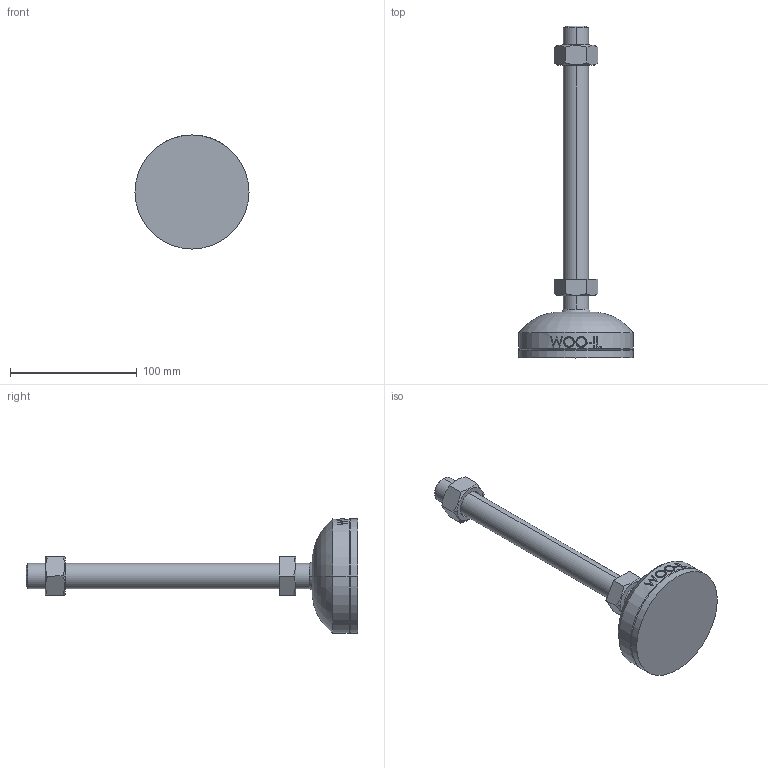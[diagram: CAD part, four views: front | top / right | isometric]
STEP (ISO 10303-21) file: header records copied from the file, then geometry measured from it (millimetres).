
FILE_DESCRIPTION (( 'STEP AP214' ), '1' );
FILE_NAME ('PL90-M20-200.step', '2021-03-05T05:05:46', ( '' ), ( '' ), 'SwSTEP 2.0', 'SolidWorks 2019', '' );
FILE_SCHEMA (( 'AUTOMOTIVE_DESIGN' ));
Length unit declared in the file: millimetre
Products named in the file (2): PL90-M20-200
Bounding box: 90 x 262 x 90 mm (x, y, z)
Volume: 277450.9 mm3; surface area: 51086.5 mm2
Topology: 3 solids, 3 shells, 100 faces, 233 edges, 150 vertices
Faces by surface type: plane 48, cylinder 18, bspline 16, cone 14, sphere 2, torus 2
Entity records: 4426 total; most frequent: CARTESIAN_POINT 2199, ORIENTED_EDGE 466, DIRECTION 407, EDGE_CURVE 233, AXIS2_PLACEMENT_3D 154, VERTEX_POINT 150, EDGE_LOOP 113, FACE_OUTER_BOUND 100
